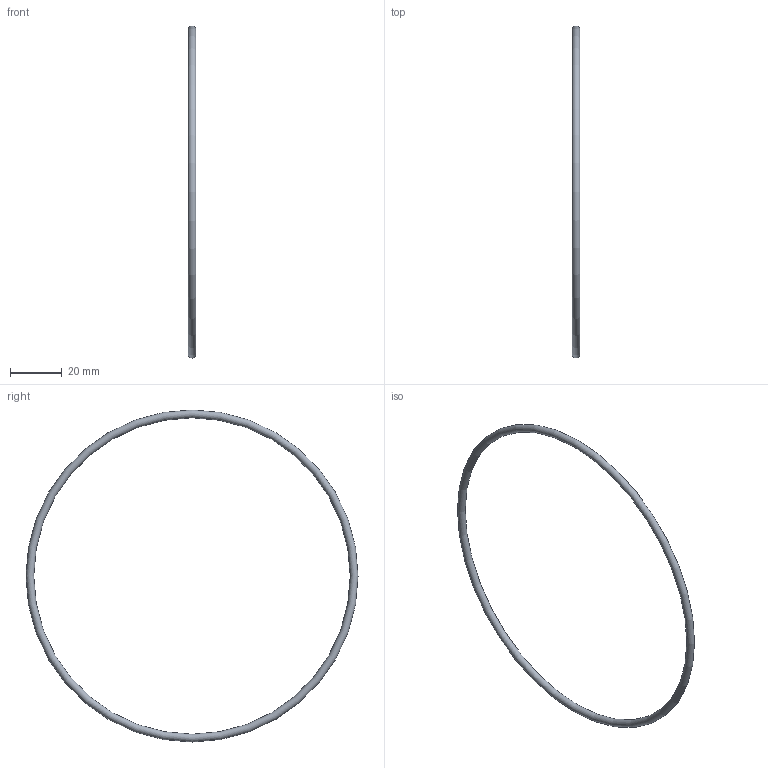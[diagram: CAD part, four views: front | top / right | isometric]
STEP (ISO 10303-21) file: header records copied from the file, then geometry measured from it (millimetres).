
FILE_DESCRIPTION(('Open CASCADE Model'),'2;1');
FILE_NAME('Open CASCADE Shape Model','2026-11-23T20:25:51',('Author'),( 'Open CASCADE'),'Open CASCADE STEP processor 7.9','Open CASCADE 7.9' ,'Unknown');
FILE_SCHEMA(('AUTOMOTIVE_DESIGN { 1 0 10303 214 1 1 1 1 }'));
Length unit declared in the file: millimetre
Products named in the file (1): Open CASCADE STEP translator 7.9 30
Bounding box: 3 x 128 x 128 mm (x, y, z)
Volume: 2775.8 mm3; surface area: 3701.1 mm2
Topology: 1 solids, 1 shells, 1 faces, 2 edges, 1 vertices
Faces by surface type: torus 1
Entity records: 70 total; most frequent: DIRECTION 12, CARTESIAN_POINT 9, AXIS2_PLACEMENT_3D 4, ORIENTED_EDGE 4, PCURVE 4, DEFINITIONAL_REPRESENTATION 4, LINE 4, VECTOR 4
